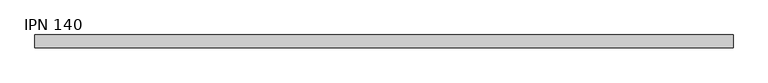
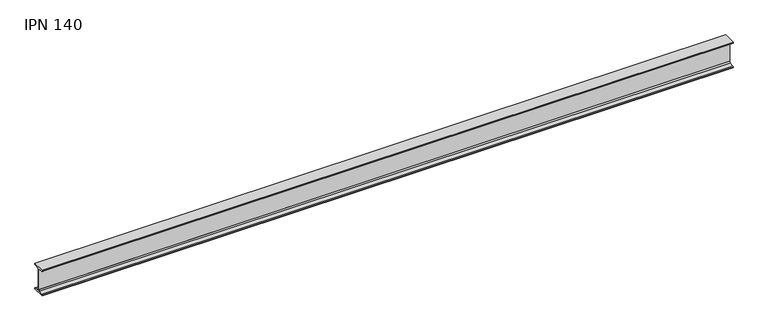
"""IFC4 building model written with IfcOpenShell, lengths in millimetres: beam geometry, IPN - Secciones en I con alas cónicas : IPN 140."""

from ifc_helpers import new_model, si_unit, point, frame, frame_2d, origin, place, context, project, spatial, polyline, circle_curve, trimmed, segment, composite_curve, outline, extrude, source, transform, mapped, element, save


def ipn_140_ea90ba17(model_context):
    return source(origin(), model_context, "Body", "SweptSolid", [
        extrude(outline(composite_curve([segment(polyline([(33.0, 70.0), (33.0, 66.6671583)]), True, "CONTINUOUS"), segment(trimmed(circle_curve(frame_2d((29.6, 66.6671583)), 3.4), [point((33.0, 66.6671583))], [point((30.0714027, 63.2999964))], False, "CARTESIAN"), True, "CONTINUOUS"), segment(polyline([(30.0714027, 63.2999964), (7.7597073, 60.176359)]), True, "CONTINUOUS"), segment(trimmed(circle_curve(frame_2d((8.55, 54.5314111)), 5.7), [point((7.7597073, 60.176359))], [point((2.85, 54.5314111))], True, "CARTESIAN"), True, "CONTINUOUS"), segment(polyline([(2.85, 54.5314111), (2.85, -54.5314111)]), True, "CONTINUOUS"), segment(trimmed(circle_curve(frame_2d((8.55, -54.5314111)), 5.7), [point((2.85, -54.5314111))], [point((7.7597073, -60.176359))], True, "CARTESIAN"), True, "CONTINUOUS"), segment(polyline([(7.7597073, -60.176359), (30.0714027, -63.2999964)]), True, "CONTINUOUS"), segment(trimmed(circle_curve(frame_2d((29.6, -66.6671583)), 3.4), [point((30.0714027, -63.2999964))], [point((33.0, -66.6671583))], False, "CARTESIAN"), True, "CONTINUOUS"), segment(polyline([(33.0, -66.6671583), (33.0, -70.0), (-33.0, -70.0), (-33.0, -66.6671583)]), True, "CONTINUOUS"), segment(trimmed(circle_curve(frame_2d((-29.6, -66.6671583)), 3.4), [point((-33.0, -66.6671583))], [point((-30.0714027, -63.2999964))], False, "CARTESIAN"), True, "CONTINUOUS"), segment(polyline([(-30.0714027, -63.2999964), (-7.7597073, -60.176359)]), True, "CONTINUOUS"), segment(trimmed(circle_curve(frame_2d((-8.55, -54.5314111)), 5.7), [point((-7.7597073, -60.176359))], [point((-2.85, -54.5314111))], True, "CARTESIAN"), True, "CONTINUOUS"), segment(polyline([(-2.85, -54.5314111), (-2.85, 54.5314111)]), True, "CONTINUOUS"), segment(trimmed(circle_curve(frame_2d((-8.55, 54.5314111)), 5.7), [point((-2.85, 54.5314111))], [point((-7.7597073, 60.176359))], True, "CARTESIAN"), True, "CONTINUOUS"), segment(polyline([(-7.7597073, 60.176359), (-30.0714027, 63.2999964)]), True, "CONTINUOUS"), segment(trimmed(circle_curve(frame_2d((-29.6, 66.6671583)), 3.4), [point((-30.0714027, 63.2999964))], [point((-33.0, 66.6671583))], False, "CARTESIAN"), True, "CONTINUOUS"), segment(polyline([(-33.0, 66.6671583), (-33.0, 70.0), (33.0, 70.0)]), True, "CONTINUOUS")], self_intersect=False)), frame((-1805.0, 0.0, 0.0), z_axis=(1.0, 0.0, 0.0), x_axis=(0.0, 1.0, 0.0)), (0.0, 0.0, 1.0), 3595.0),
    ])


if __name__ == "__main__":
    model = new_model("IFC4")
    model_context = context("Model", 3, world=origin())
    ifc_project = project(units=[si_unit("LENGTHUNIT", "METRE", prefix="MILLI")], contexts=[model_context])
    site = spatial("IfcSite", under=ifc_project)
    building = spatial("IfcBuilding", under=site)
    placement = place(None, origin())
    ipn_140_shape = ipn_140_ea90ba17(model_context)
    element("IfcBeam", 1, ObjectType="IPN - Secciones en I con alas cónicas : IPN 140", at=placement, inside=building, context=model_context, shape_type="MappedRepresentation", body=[
        mapped(ipn_140_shape, transform((0.0, 0.0, 0.0), x_axis=(1.0, 0.0, 0.0), y_axis=(0.0, 1.0, 0.0), z_axis=(0.0, 0.0, 1.0))),
    ])
    save(model, "model.ifc")
